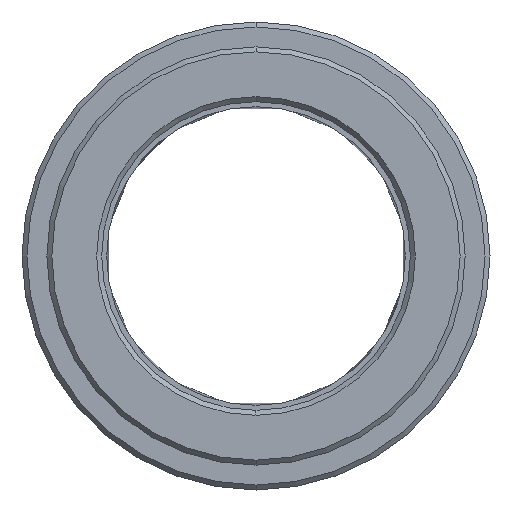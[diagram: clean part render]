
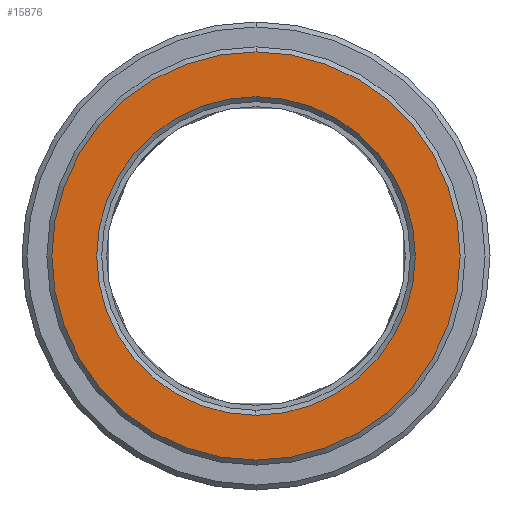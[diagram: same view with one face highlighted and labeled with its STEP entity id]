
A CAD part, left-side view. The second image highlights one B-rep face of the part: STEP entity #15876.
In plain terms, the highlighted planar face has unit normal (-1, 0, 0).
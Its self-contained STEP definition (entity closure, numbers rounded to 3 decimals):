
#6424=CARTESIAN_POINT('',(-8.,0.,
0.));
#6425=DIRECTION('',(1.,0.,0.));
#6426=DIRECTION('',(0.,0.,1.));
#6427=AXIS2_PLACEMENT_3D('',#6424,#6425,#6426);
#6429=CARTESIAN_POINT('',(-8.,0.,
0.));
#6430=DIRECTION('',(1.,0.,0.));
#6431=DIRECTION('',(0.,0.,-1.));
#6432=AXIS2_PLACEMENT_3D('',#6429,#6430,#6431);
#6434=CARTESIAN_POINT('',(-8.,0.,
0.));
#6435=DIRECTION('',(1.,0.,0.));
#6436=DIRECTION('',(0.,0.,1.));
#6437=AXIS2_PLACEMENT_3D('',#6434,#6435,#6436);
#6439=CARTESIAN_POINT('',(-8.,0.,0.));
#6440=DIRECTION('',(1.,0.,0.));
#6441=DIRECTION('',(0.,0.,-1.));
#6442=AXIS2_PLACEMENT_3D('',#6439,#6440,#6441);
#13588=CARTESIAN_POINT('',(-8.,0.,16.));
#13589=CARTESIAN_POINT('',(-8.,0.,-16.));
#13590=VERTEX_POINT('',#13588);
#13591=VERTEX_POINT('',#13589);
#13596=CARTESIAN_POINT('',(-8.,0.,20.5));
#13597=CARTESIAN_POINT('',(-8.,0.,-20.5));
#13598=VERTEX_POINT('',#13596);
#13599=VERTEX_POINT('',#13597);
#15860=CARTESIAN_POINT('',(-8.,0.,0.));
#15861=DIRECTION('',(1.,0.,0.));
#15862=DIRECTION('',(0.,0.,1.));
#15863=AXIS2_PLACEMENT_3D('',#15860,#15861,#15862);
#15864=PLANE('',#15863);
#15866=ORIENTED_EDGE('',*,*,#15865,.T.);
#15868=ORIENTED_EDGE('',*,*,#15867,.T.);
#15869=EDGE_LOOP('',(#15866,#15868));
#15870=FACE_OUTER_BOUND('',#15869,.F.);
#15872=ORIENTED_EDGE('',*,*,#15871,.F.);
#15873=ORIENTED_EDGE('',*,*,#15850,.F.);
#15874=EDGE_LOOP('',(#15872,#15873));
#15875=FACE_BOUND('',#15874,.F.);
#15876=ADVANCED_FACE('',(#15870,#15875),#15864,.F.);
#6428=CIRCLE('',#6427,20.5);
#6433=CIRCLE('',#6432,20.5);
#6438=CIRCLE('',#6437,16.);
#6443=CIRCLE('',#6442,16.);
#15850=EDGE_CURVE('',#13591,#13590,#6443,.T.);
#15865=EDGE_CURVE('',#13598,#13599,#6428,.T.);
#15867=EDGE_CURVE('',#13599,#13598,#6433,.T.);
#15871=EDGE_CURVE('',#13590,#13591,#6438,.T.);
